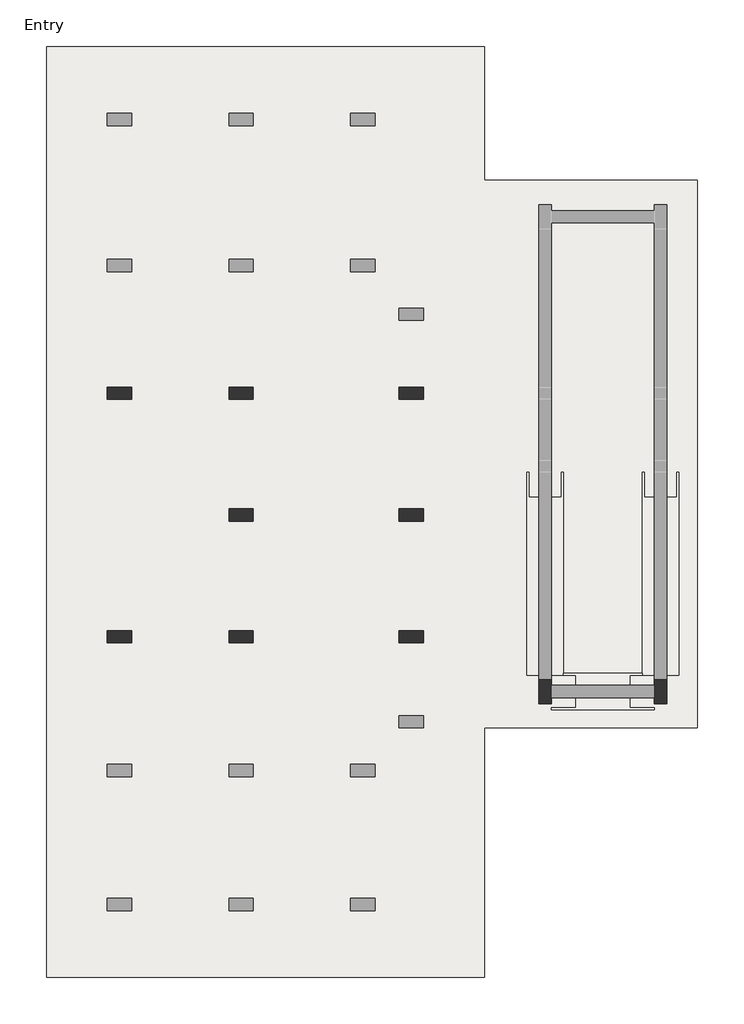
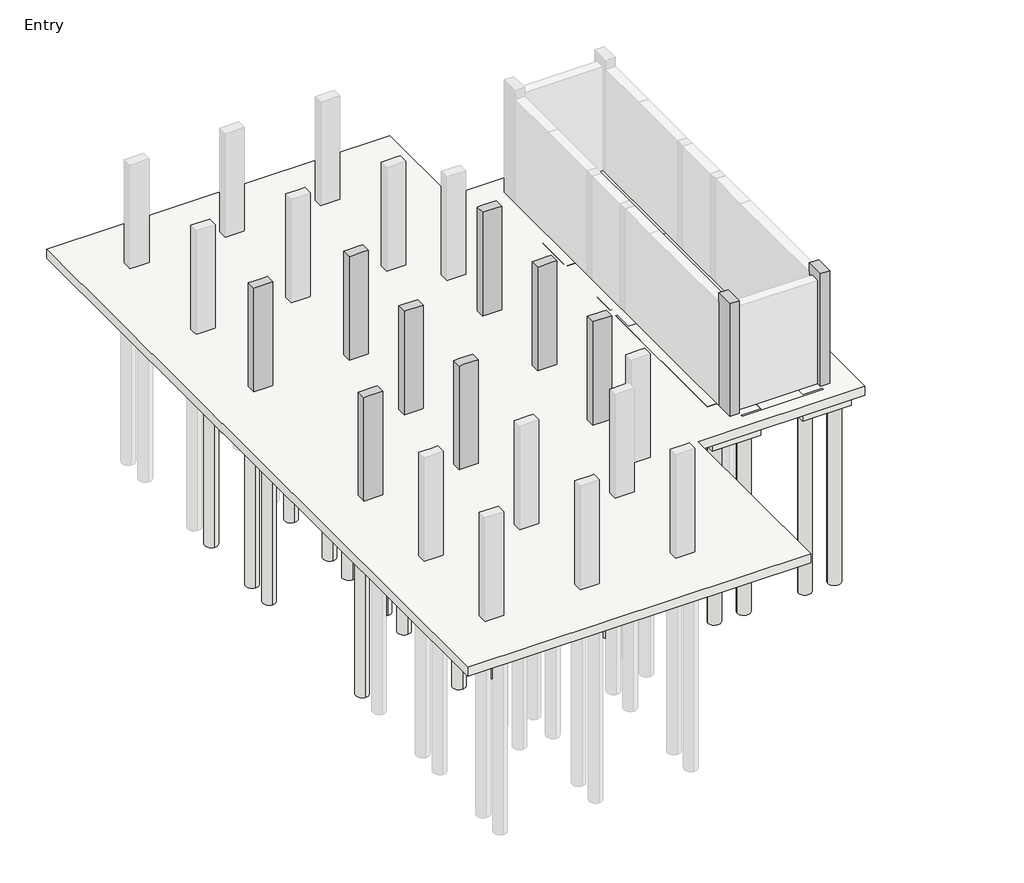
# One storey, part 3 of 4: 39 slabs, 10 columns, 3 footings.
"""IFC4 building model written with IfcOpenShell, lengths in millimetres."""

from ifc_helpers import new_model, si_unit, point, frame, frame_2d, origin, place, context, project, spatial, polyline, circle_curve, trimmed, segment, composite_curve, outline, extrude, faceted_brep, element, save

model = new_model("IFC4")

# Units and contexts
model_context = context("Model", 3, world=origin())
ifc_project = project(units=[si_unit("LENGTHUNIT", "METRE", prefix="MILLI")], contexts=[model_context])

# Site, building, storey
site = spatial("IfcSite", under=ifc_project)
building = spatial("IfcBuilding", under=site)
storey = spatial("IfcBuildingStorey", under=building, Name="Entry", Elevation=0.0)

# Columns
placement = place(None, origin())
element("IfcColumn", 1, ObjectType="Concrete-Rectangular-Column : 12 x 24", at=placement, inside=storey, context=model_context, shape_type="Brep", body=[
    faceted_brep([(-15967.1663981, 3416.1487848, 0.0), (-15357.5663981, 3416.1487848, 0.0), (-15357.5663981, 3111.3487848, 0.0), (-15967.1663981, 3111.3487848, 0.0), (-15967.1663981, 3416.1487848, 3505.2), (-15814.7663981, 3416.1487848, 3505.2), (-15509.9663981, 3416.1487848, 3505.2), (-15357.5663981, 3416.1487848, 3505.2), (-15357.5663981, 3416.1487848, 2895.6), (-15357.5663981, 3111.3487848, 3505.2), (-15357.5663981, 3111.3487848, 2895.6), (-15967.1663981, 3111.3487848, 3505.2)], [[[0, 1, 2, 3]], [[4, 5, 6, 7, 8, 1, 0]], [[7, 9, 10, 2, 1, 8]], [[9, 11, 3, 2, 10]], [[11, 4, 0, 3]], [[4, 11, 9, 7, 6, 5]]]),
])
element("IfcColumn", 2, ObjectType="Concrete-Rectangular-Column : 12 x 24", at=placement, inside=storey, context=model_context, shape_type="Brep", body=[
    faceted_brep([(-15967.1663981, -2679.8512152, 0.0), (-15357.5663981, -2679.8512152, 0.0), (-15357.5663981, -2984.6512152, 0.0), (-15967.1663981, -2984.6512152, 0.0), (-15967.1663981, -2679.8512152, 3505.2), (-15357.5663981, -2679.8512152, 3505.2), (-15357.5663981, -2679.8512152, 2895.6), (-15357.5663981, -2984.6512152, 3505.2), (-15357.5663981, -2984.6512152, 2895.6), (-15509.9663981, -2984.6512152, 3505.2), (-15814.7663981, -2984.6512152, 3505.2), (-15967.1663981, -2984.6512152, 3505.2)], [[[0, 1, 2, 3]], [[4, 5, 6, 1, 0]], [[5, 7, 8, 2, 1, 6]], [[7, 9, 10, 11, 3, 2, 8]], [[11, 4, 0, 3]], [[4, 11, 10, 9, 7, 5]]]),
])
element("IfcColumn", 3, ObjectType="Concrete-Rectangular-Column : 12 x 24", at=placement, inside=storey, context=model_context, shape_type="Brep", body=[
    faceted_brep([(-12919.1663981, -2679.8512152, 0.0), (-12309.5663981, -2679.8512152, 0.0), (-12309.5663981, -2984.6512152, 0.0), (-12919.1663981, -2984.6512152, 0.0), (-12919.1663981, -2679.8512152, 3505.2), (-12766.7663981, -2679.8512152, 3505.2), (-12461.9663981, -2679.8512152, 3505.2), (-12309.5663981, -2679.8512152, 3505.2), (-12309.5663981, -2679.8512152, 2895.6), (-12919.1663981, -2679.8512152, 2895.6), (-12309.5663981, -2984.6512152, 3505.2), (-12309.5663981, -2984.6512152, 2895.6), (-12461.9663981, -2984.6512152, 3505.2), (-12766.7663981, -2984.6512152, 3505.2), (-12919.1663981, -2984.6512152, 3505.2), (-12919.1663981, -2984.6512152, 2895.6)], [[[0, 1, 2, 3]], [[4, 5, 6, 7, 8, 1, 0, 9]], [[7, 10, 11, 2, 1, 8]], [[10, 12, 13, 14, 15, 3, 2, 11]], [[14, 4, 9, 0, 3, 15]], [[4, 14, 13, 12, 10, 7, 6, 5]]]),
])
element("IfcColumn", 4, ObjectType="Concrete-Rectangular-Column : 12 x 24", at=placement, inside=storey, context=model_context, shape_type="Brep", body=[
    faceted_brep([(-12919.1663981, 368.1487848, 0.0), (-12309.5663981, 368.1487848, 0.0), (-12309.5663981, 63.3487848, 0.0), (-12919.1663981, 63.3487848, 0.0), (-12919.1663981, 368.1487848, 3505.2), (-12766.7663981, 368.1487848, 3505.2), (-12461.9663981, 368.1487848, 3505.2), (-12309.5663981, 368.1487848, 3505.2), (-12309.5663981, 368.1487848, 2895.6), (-12309.5663981, 63.3487848, 3505.2), (-12309.5663981, 63.3487848, 2895.6), (-12461.9663981, 63.3487848, 3505.2), (-12766.7663981, 63.3487848, 3505.2), (-12919.1663981, 63.3487848, 3505.2)], [[[0, 1, 2, 3]], [[4, 5, 6, 7, 8, 1, 0]], [[7, 9, 10, 2, 1, 8]], [[9, 11, 12, 13, 3, 2, 10]], [[13, 4, 0, 3]], [[4, 13, 12, 11, 9, 7, 6, 5]]]),
])
element("IfcColumn", 5, ObjectType="Concrete-Rectangular-Column : 12 x 24", at=placement, inside=storey, context=model_context, shape_type="Brep", body=[
    faceted_brep([(-12919.1663981, 3416.1487848, 0.0), (-12309.5663981, 3416.1487848, 0.0), (-12309.5663981, 3111.3487848, 0.0), (-12919.1663981, 3111.3487848, 0.0), (-12919.1663981, 3416.1487848, 3505.2), (-12766.7663981, 3416.1487848, 3505.2), (-12461.9663981, 3416.1487848, 3505.2), (-12309.5663981, 3416.1487848, 3505.2), (-12309.5663981, 3416.1487848, 2895.6), (-12919.1663981, 3416.1487848, 2895.6), (-12309.5663981, 3111.3487848, 3505.2), (-12309.5663981, 3111.3487848, 2895.6), (-12461.9663981, 3111.3487848, 3505.2), (-12766.7663981, 3111.3487848, 3505.2), (-12919.1663981, 3111.3487848, 3505.2), (-12919.1663981, 3111.3487848, 2895.6)], [[[0, 1, 2, 3]], [[4, 5, 6, 7, 8, 1, 0, 9]], [[7, 10, 11, 2, 1, 8]], [[10, 12, 13, 14, 15, 3, 2, 11]], [[14, 4, 9, 0, 3, 15]], [[4, 14, 13, 12, 10, 7, 6, 5]]]),
])
element("IfcColumn", 6, ObjectType="Concrete-Rectangular-Column : 12 x 24", at=placement, inside=storey, context=model_context, shape_type="Brep", body=[
    faceted_brep([(-8651.9663981, 3416.1487848, 0.0), (-8042.3663981, 3416.1487848, 0.0), (-8042.3663981, 3111.3487848, 0.0), (-8651.9663981, 3111.3487848, 0.0), (-8651.9663981, 3416.1487848, 3505.2), (-8499.5663981, 3416.1487848, 3505.2), (-8194.7663981, 3416.1487848, 3505.2), (-8042.3663981, 3416.1487848, 3505.2), (-8042.3663981, 3416.1487848, 2895.6), (-8651.9663981, 3416.1487848, 2895.6), (-8042.3663981, 3111.3487848, 3505.2), (-8042.3663981, 3111.3487848, 2895.6), (-8194.7663981, 3111.3487848, 3505.2), (-8499.5663981, 3111.3487848, 3505.2), (-8651.9663981, 3111.3487848, 3505.2), (-8651.9663981, 3111.3487848, 2895.6)], [[[0, 1, 2, 3]], [[4, 5, 6, 7, 8, 1, 0, 9]], [[7, 10, 11, 2, 1, 8]], [[10, 12, 13, 14, 15, 3, 2, 11]], [[14, 4, 9, 0, 3, 15]], [[4, 14, 13, 12, 10, 7, 6, 5]]]),
])
element("IfcColumn", 7, ObjectType="Concrete-Rectangular-Column : 12 x 24", at=placement, inside=storey, context=model_context, shape_type="Brep", body=[
    faceted_brep([(-8651.9663981, 368.1487848, 0.0), (-8042.3663981, 368.1487848, 0.0), (-8042.3663981, 63.3487848, 0.0), (-8651.9663981, 63.3487848, 0.0), (-8651.9663981, 368.1487848, 3505.2), (-8499.5663981, 368.1487848, 3505.2), (-8194.7663981, 368.1487848, 3505.2), (-8042.3663981, 368.1487848, 3505.2), (-8651.9663981, 368.1487848, 2895.6), (-8042.3663981, 63.3487848, 3505.2), (-8194.7663981, 63.3487848, 3505.2), (-8499.5663981, 63.3487848, 3505.2), (-8651.9663981, 63.3487848, 3505.2), (-8651.9663981, 63.3487848, 2895.6)], [[[0, 1, 2, 3]], [[4, 5, 6, 7, 1, 0, 8]], [[7, 9, 2, 1]], [[9, 10, 11, 12, 13, 3, 2]], [[12, 4, 8, 0, 3, 13]], [[4, 12, 11, 10, 9, 7, 6, 5]]]),
])
element("IfcColumn", 8, ObjectType="Concrete-Rectangular-Column : 12 x 24", at=placement, inside=storey, context=model_context, shape_type="Brep", body=[
    faceted_brep([(-8651.9663981, -2679.8512152, 0.0), (-8042.3663981, -2679.8512152, 0.0), (-8042.3663981, -2984.6512152, 0.0), (-8651.9663981, -2984.6512152, 0.0), (-8651.9663981, -2679.8512152, 3505.2), (-8499.5663981, -2679.8512152, 3505.2), (-8194.7663981, -2679.8512152, 3505.2), (-8042.3663981, -2679.8512152, 3505.2), (-8651.9663981, -2679.8512152, 2895.6), (-8042.3663981, -2984.6512152, 3505.2), (-8194.7663981, -2984.6512152, 3505.2), (-8499.5663981, -2984.6512152, 3505.2), (-8651.9663981, -2984.6512152, 3505.2), (-8651.9663981, -2984.6512152, 2895.6)], [[[0, 1, 2, 3]], [[4, 5, 6, 7, 1, 0, 8]], [[7, 9, 2, 1]], [[9, 10, 11, 12, 13, 3, 2]], [[12, 4, 8, 0, 3, 13]], [[4, 12, 11, 10, 9, 7, 6, 5]]]),
])
element("IfcColumn", 9, ObjectType="Concrete-Rectangular-Column : 12 x 24", at=placement, inside=storey, context=model_context, shape_type="Brep", body=[
    faceted_brep([(-5146.7663981, -4508.6512152, 0.0), (-5146.7663981, -3899.0512152, 0.0), (-4841.9663981, -3899.0512152, 0.0), (-4841.9663981, -4051.4512152, 0.0), (-4841.9663981, -4356.2512152, 0.0), (-4841.9663981, -4508.6512152, 0.0), (-5146.7663981, -4508.6512152, 3810.0), (-5146.7663981, -3899.0512152, 3810.0), (-5146.7663981, -3899.0512152, 3505.2), (-4841.9663981, -3899.0512152, 3810.0), (-4841.9663981, -3899.0512152, 3505.2), (-4841.9663981, -4508.6512152, 3810.0)], [[[0, 1, 2, 3, 4, 5]], [[6, 7, 8, 1, 0]], [[7, 9, 10, 2, 1, 8]], [[9, 11, 5, 4, 3, 2, 10]], [[11, 6, 0, 5]], [[6, 11, 9, 7]]]),
])
element("IfcColumn", 10, ObjectType="Concrete-Rectangular-Column : 12 x 24", at=placement, inside=storey, context=model_context, shape_type="Brep", body=[
    faceted_brep([(-2251.1663981, -4508.6512152, 0.0), (-2251.1663981, -4356.2512152, 0.0), (-2251.1663981, -4051.4512152, 0.0), (-2251.1663981, -3899.0512152, 0.0), (-1946.3663981, -3899.0512152, 0.0), (-1946.3663981, -4508.6512152, 0.0), (-2251.1663981, -4508.6512152, 3810.0), (-2251.1663981, -3899.0512152, 3810.0), (-2251.1663981, -3899.0512152, 3505.2), (-1946.3663981, -3899.0512152, 3810.0), (-1946.3663981, -3899.0512152, 3505.2), (-1946.3663981, -4508.6512152, 3810.0)], [[[0, 1, 2, 3, 4, 5]], [[6, 7, 8, 3, 2, 1, 0]], [[7, 9, 10, 4, 3, 8]], [[9, 11, 5, 4, 10]], [[11, 6, 0, 5]], [[6, 11, 9, 7]]]),
])

# Footings
element("IfcFooting", 11, ObjectType="Bearing Footing - 36\" x 12\"", at=placement, inside=storey, context=model_context, shape_type="Brep", body=[
    faceted_brep([(-4537.1663981, 1282.5487848, 0.0), (-4537.1663981, 1282.5487848, -304.8), (-4587.9663981, 1282.5487848, -304.8), (-4587.9663981, 1282.5487848, 0.0), (-5451.5663981, 1282.5487848, -304.8), (-5451.5663981, 1282.5487848, 0.0), (-5400.7663981, 1282.5487848, 0.0), (-5400.7663981, 1282.5487848, -304.8), (-5451.5663981, -3797.4512152, 0.0), (-4537.1663981, -3797.4512152, 0.0), (-4537.1663981, -3746.6512152, 0.0), (-4587.9663981, 660.2487848, 0.0), (-5400.7663981, 660.2487848, 0.0), (-4537.1663981, -3797.4512152, -304.8), (-4537.1663981, -3746.6512152, -304.8), (-5400.7663981, 660.2487848, -304.8), (-4587.9663981, 660.2487848, -304.8), (-5451.5663981, -3797.4512152, -304.8)], [[[0, 1, 2, 3]], [[4, 5, 6, 7]], [[6, 5, 8, 9, 10, 0, 3, 11, 12]], [[1, 0, 10, 9, 13, 14]], [[4, 7, 15, 16, 2, 1, 14, 13, 17]], [[5, 4, 17, 8]], [[12, 15, 7, 6]], [[15, 12, 11, 16]], [[16, 11, 3, 2]], [[9, 8, 17, 13]]]),
])
element("IfcFooting", 12, ObjectType="Bearing Footing - 36\" x 12\"", at=placement, inside=storey, context=model_context, shape_type="Brep", body=[
    faceted_brep([(-1641.5663981, 1282.5487848, 0.0), (-1641.5663981, 1282.5487848, -304.8), (-1692.3663981, 1282.5487848, -304.8), (-1692.3663981, 1282.5487848, 0.0), (-2555.9663981, 1282.5487848, -304.8), (-2555.9663981, 1282.5487848, 0.0), (-2505.1663981, 1282.5487848, 0.0), (-2505.1663981, 1282.5487848, -304.8), (-2555.9663981, -3746.6512152, 0.0), (-2555.9663981, -3797.4512152, 0.0), (-1641.5663981, -3797.4512152, 0.0), (-1692.3663981, 660.2487848, 0.0), (-2505.1663981, 660.2487848, 0.0), (-1641.5663981, -3797.4512152, -304.8), (-2505.1663981, 660.2487848, -304.8), (-1692.3663981, 660.2487848, -304.8), (-2555.9663981, -3797.4512152, -304.8), (-2555.9663981, -3746.6512152, -304.8)], [[[0, 1, 2, 3]], [[4, 5, 6, 7]], [[6, 5, 8, 9, 10, 0, 3, 11, 12]], [[1, 0, 10, 13]], [[4, 7, 14, 15, 2, 1, 13, 16, 17]], [[5, 4, 17, 16, 9, 8]], [[12, 14, 7, 6]], [[14, 12, 11, 15]], [[15, 11, 3, 2]], [[10, 9, 16, 13]]]),
])
element("IfcFooting", 13, ObjectType="Bearing Footing - 36\" x 12\"", at=placement, inside=storey, context=model_context, shape_type="SweptSolid", body=[
    extrude(outline(polyline([(-2251.1663981, -4661.0512152), (-4841.9663981, -4661.0512152), (-4841.9663981, -4610.2512152), (-4219.6663981, -4610.2512152), (-4219.6663981, -3797.4512152), (-4537.1663981, -3797.4512152), (-4537.1663981, -3746.6512152), (-2555.9663981, -3746.6512152), (-2555.9663981, -3797.4512152), (-2873.4663981, -3797.4512152), (-2873.4663981, -4610.2512152), (-2251.1663981, -4610.2512152), (-2251.1663981, -4661.0512152)])), frame((0.0, 0.0, -304.8), z_axis=(0.0, 0.0, 1.0), x_axis=(1.0, 0.0, 0.0)), (0.0, 0.0, 1.0), 304.8),
])

# Slabs
element("IfcSlab", 14, ObjectType="12\" Foundation Slab", at=placement, inside=storey, context=model_context, shape_type="SweptSolid", body=[
    extrude(outline(polyline([(-6518.3663981, 11950.5487848), (-6518.3663981, 8597.7487848), (-1184.3663981, 8597.7487848), (-1184.3663981, -5118.2512152), (-6518.3663981, -5118.2512152), (-6518.3663981, -11366.6512152), (-17491.1663981, -11366.6512152), (-17491.1663981, 11950.5487848), (-6518.3663981, 11950.5487848)])), frame((0.0, 0.0, -304.8), z_axis=(0.0, 0.0, 1.0), x_axis=(1.0, 0.0, 0.0)), (0.0, 0.0, 1.0), 304.8),
])
element("IfcSlab", 15, ObjectType="Pile Cap-2 Pile : 31\"x61\"x35\"", at=placement, inside=storey, context=model_context, shape_type="SweptSolid", body=[
    extrude(outline(polyline([(-16068.7663981, 4038.4487848), (-15255.9663981, 4038.4487848), (-15255.9663981, 2489.0487848), (-16068.7663981, 2489.0487848), (-16068.7663981, 4038.4487848)])), frame((0.0, 0.0, -889.0), z_axis=(0.0, 0.0, 1.0), x_axis=(1.0, 0.0, 0.0)), (0.0, 0.0, 1.0), 584.2),
])
element("IfcSlab", 16, ObjectType="Pile Cap-2 Pile : 31\"x61\"x35\"", at=placement, inside=storey, context=model_context, shape_type="SweptSolid", body=[
    extrude(outline(polyline([(-16068.7663981, -2057.5512152), (-15255.9663981, -2057.5512152), (-15255.9663981, -3606.9512152), (-16068.7663981, -3606.9512152), (-16068.7663981, -2057.5512152)])), frame((0.0, 0.0, -889.0), z_axis=(0.0, 0.0, 1.0), x_axis=(1.0, 0.0, 0.0)), (0.0, 0.0, 1.0), 584.2),
])
element("IfcSlab", 17, ObjectType="Pile Cap-2 Pile : 31\"x61\"x35\"", at=placement, inside=storey, context=model_context, shape_type="SweptSolid", body=[
    extrude(outline(polyline([(-8753.5663981, -2057.5512152), (-7940.7663981, -2057.5512152), (-7940.7663981, -3606.9512152), (-8753.5663981, -3606.9512152), (-8753.5663981, -2057.5512152)])), frame((0.0, 0.0, -889.0), z_axis=(0.0, 0.0, 1.0), x_axis=(1.0, 0.0, 0.0)), (0.0, 0.0, 1.0), 584.2),
])
element("IfcSlab", 18, ObjectType="Pile Cap-2 Pile : 31\"x61\"x35\"", at=placement, inside=storey, context=model_context, shape_type="SweptSolid", body=[
    extrude(outline(polyline([(-8753.5663981, 990.4487848), (-7940.7663981, 990.4487848), (-7940.7663981, -558.9512152), (-8753.5663981, -558.9512152), (-8753.5663981, 990.4487848)])), frame((0.0, 0.0, -889.0), z_axis=(0.0, 0.0, 1.0), x_axis=(1.0, 0.0, 0.0)), (0.0, 0.0, 1.0), 584.2),
])
element("IfcSlab", 19, ObjectType="Pile Cap-2 Pile : 31\"x61\"x35\"", at=placement, inside=storey, context=model_context, shape_type="SweptSolid", body=[
    extrude(outline(polyline([(-8753.5663981, 4038.4487848), (-7940.7663981, 4038.4487848), (-7940.7663981, 2489.0487848), (-8753.5663981, 2489.0487848), (-8753.5663981, 4038.4487848)])), frame((0.0, 0.0, -889.0), z_axis=(0.0, 0.0, 1.0), x_axis=(1.0, 0.0, 0.0)), (0.0, 0.0, 1.0), 584.2),
])
element("IfcSlab", 20, ObjectType="Pile Cap-2 Pile : 31\"x61\"x35\"", at=placement, inside=storey, context=model_context, shape_type="SweptSolid", body=[
    extrude(outline(polyline([(-5769.0663981, -4610.2512152), (-5769.0663981, -3797.4512152), (-4219.6663981, -3797.4512152), (-4219.6663981, -4610.2512152), (-5769.0663981, -4610.2512152)])), frame((0.0, 0.0, -889.0), z_axis=(0.0, 0.0, 1.0), x_axis=(1.0, 0.0, 0.0)), (0.0, 0.0, 1.0), 584.2),
])
element("IfcSlab", 21, ObjectType="Pile Cap-2 Pile : 31\"x61\"x35\"", at=placement, inside=storey, context=model_context, shape_type="SweptSolid", body=[
    extrude(outline(polyline([(-2873.4663981, -4610.2512152), (-2873.4663981, -3797.4512152), (-1324.0663981, -3797.4512152), (-1324.0663981, -4610.2512152), (-2873.4663981, -4610.2512152)])), frame((0.0, 0.0, -889.0), z_axis=(0.0, 0.0, 1.0), x_axis=(1.0, 0.0, 0.0)), (0.0, 0.0, 1.0), 584.2),
])
element("IfcSlab", 22, ObjectType="Pile Cap-4 Pile : 72\"x72\"x35\"", at=placement, inside=storey, context=model_context, shape_type="SweptSolid", body=[
    extrude(outline(polyline([(-13528.7663981, 4178.1487848), (-11699.9663981, 4178.1487848), (-11699.9663981, 2349.3487848), (-13528.7663981, 2349.3487848), (-13528.7663981, 4178.1487848)])), frame((0.0, 0.0, -889.0), z_axis=(0.0, 0.0, 1.0), x_axis=(1.0, 0.0, 0.0)), (0.0, 0.0, 1.0), 584.2),
])
element("IfcSlab", 23, ObjectType="Pile Cap-4 Pile : 72\"x72\"x35\"", at=placement, inside=storey, context=model_context, shape_type="SweptSolid", body=[
    extrude(outline(polyline([(-13528.7663981, 1130.1487848), (-11699.9663981, 1130.1487848), (-11699.9663981, -698.6512152), (-13528.7663981, -698.6512152), (-13528.7663981, 1130.1487848)])), frame((0.0, 0.0, -889.0), z_axis=(0.0, 0.0, 1.0), x_axis=(1.0, 0.0, 0.0)), (0.0, 0.0, 1.0), 584.2),
])
element("IfcSlab", 24, ObjectType="Pile Cap-4 Pile : 72\"x72\"x35\"", at=placement, inside=storey, context=model_context, shape_type="SweptSolid", body=[
    extrude(outline(polyline([(-13528.7663981, -1917.8512152), (-11699.9663981, -1917.8512152), (-11699.9663981, -3746.6512152), (-13528.7663981, -3746.6512152), (-13528.7663981, -1917.8512152)])), frame((0.0, 0.0, -889.0), z_axis=(0.0, 0.0, 1.0), x_axis=(1.0, 0.0, 0.0)), (0.0, 0.0, 1.0), 584.2),
])
element("IfcSlab", 25, ObjectType="Pile-Steel Pipe : 16\" Diameter", at=placement, inside=storey, context=model_context, shape_type="SweptSolid", body=[
    extrude(outline(composite_curve([segment(trimmed(circle_curve(frame_2d((-13147.7663981, 5930.7487848)), 203.2), [point((-13147.7663981, 5727.5487848))], [point((-13147.7663981, 6133.9487848))], False, "CARTESIAN"), True, "CONTINUOUS"), segment(trimmed(circle_curve(frame_2d((-13147.7663981, 5930.7487848)), 203.2), [point((-13147.7663981, 6133.9487848))], [point((-13147.7663981, 5727.5487848))], False, "CARTESIAN"), True, "CONTINUOUS")], self_intersect=False)), frame((0.0, 0.0, -6985.0), z_axis=(0.0, 0.0, 1.0), x_axis=(1.0, 0.0, 0.0)), (0.0, 0.0, 1.0), 6096.0),
])
element("IfcSlab", 26, ObjectType="Pile-Steel Pipe : 16\" Diameter", at=placement, inside=storey, context=model_context, shape_type="SweptSolid", body=[
    extrude(outline(composite_curve([segment(trimmed(circle_curve(frame_2d((-12080.9663981, 5930.7487848)), 203.2), [point((-12080.9663981, 5727.5487848))], [point((-12080.9663981, 6133.9487848))], False, "CARTESIAN"), True, "CONTINUOUS"), segment(trimmed(circle_curve(frame_2d((-12080.9663981, 5930.7487848)), 203.2), [point((-12080.9663981, 6133.9487848))], [point((-12080.9663981, 5727.5487848))], False, "CARTESIAN"), True, "CONTINUOUS")], self_intersect=False)), frame((0.0, 0.0, -6985.0), z_axis=(0.0, 0.0, 1.0), x_axis=(1.0, 0.0, 0.0)), (0.0, 0.0, 1.0), 6096.0),
])
element("IfcSlab", 27, ObjectType="Pile-Steel Pipe : 16\" Diameter", at=placement, inside=storey, context=model_context, shape_type="SweptSolid", body=[
    extrude(outline(composite_curve([segment(trimmed(circle_curve(frame_2d((-13147.7663981, 2730.3487848)), 203.2), [point((-13147.7663981, 2527.1487848))], [point((-13147.7663981, 2933.5487848))], False, "CARTESIAN"), True, "CONTINUOUS"), segment(trimmed(circle_curve(frame_2d((-13147.7663981, 2730.3487848)), 203.2), [point((-13147.7663981, 2933.5487848))], [point((-13147.7663981, 2527.1487848))], False, "CARTESIAN"), True, "CONTINUOUS")], self_intersect=False)), frame((0.0, 0.0, -6985.0), z_axis=(0.0, 0.0, 1.0), x_axis=(1.0, 0.0, 0.0)), (0.0, 0.0, 1.0), 6096.0),
])
element("IfcSlab", 28, ObjectType="Pile-Steel Pipe : 16\" Diameter", at=placement, inside=storey, context=model_context, shape_type="SweptSolid", body=[
    extrude(outline(composite_curve([segment(trimmed(circle_curve(frame_2d((-12080.9663981, 2730.3487848)), 203.2), [point((-12080.9663981, 2527.1487848))], [point((-12080.9663981, 2933.5487848))], False, "CARTESIAN"), True, "CONTINUOUS"), segment(trimmed(circle_curve(frame_2d((-12080.9663981, 2730.3487848)), 203.2), [point((-12080.9663981, 2933.5487848))], [point((-12080.9663981, 2527.1487848))], False, "CARTESIAN"), True, "CONTINUOUS")], self_intersect=False)), frame((0.0, 0.0, -6985.0), z_axis=(0.0, 0.0, 1.0), x_axis=(1.0, 0.0, 0.0)), (0.0, 0.0, 1.0), 6096.0),
])
element("IfcSlab", 29, ObjectType="Pile-Steel Pipe : 16\" Diameter", at=placement, inside=storey, context=model_context, shape_type="SweptSolid", body=[
    extrude(outline(composite_curve([segment(trimmed(circle_curve(frame_2d((-12080.9663981, 3797.1487848)), 203.2), [point((-12080.9663981, 3593.9487848))], [point((-12080.9663981, 4000.3487848))], False, "CARTESIAN"), True, "CONTINUOUS"), segment(trimmed(circle_curve(frame_2d((-12080.9663981, 3797.1487848)), 203.2), [point((-12080.9663981, 4000.3487848))], [point((-12080.9663981, 3593.9487848))], False, "CARTESIAN"), True, "CONTINUOUS")], self_intersect=False)), frame((0.0, 0.0, -6985.0), z_axis=(0.0, 0.0, 1.0), x_axis=(1.0, 0.0, 0.0)), (0.0, 0.0, 1.0), 6096.0),
])
element("IfcSlab", 30, ObjectType="Pile-Steel Pipe : 16\" Diameter", at=placement, inside=storey, context=model_context, shape_type="SweptSolid", body=[
    extrude(outline(composite_curve([segment(trimmed(circle_curve(frame_2d((-13147.7663981, 3797.1487848)), 203.2), [point((-13147.7663981, 3593.9487848))], [point((-13147.7663981, 4000.3487848))], False, "CARTESIAN"), True, "CONTINUOUS"), segment(trimmed(circle_curve(frame_2d((-13147.7663981, 3797.1487848)), 203.2), [point((-13147.7663981, 4000.3487848))], [point((-13147.7663981, 3593.9487848))], False, "CARTESIAN"), True, "CONTINUOUS")], self_intersect=False)), frame((0.0, 0.0, -6985.0), z_axis=(0.0, 0.0, 1.0), x_axis=(1.0, 0.0, 0.0)), (0.0, 0.0, 1.0), 6096.0),
])
element("IfcSlab", 31, ObjectType="Pile-Steel Pipe : 16\" Diameter", at=placement, inside=storey, context=model_context, shape_type="SweptSolid", body=[
    extrude(outline(composite_curve([segment(trimmed(circle_curve(frame_2d((-13147.7663981, -317.6512152)), 203.2), [point((-13147.7663981, -520.8512152))], [point((-13147.7663981, -114.4512152))], False, "CARTESIAN"), True, "CONTINUOUS"), segment(trimmed(circle_curve(frame_2d((-13147.7663981, -317.6512152)), 203.2), [point((-13147.7663981, -114.4512152))], [point((-13147.7663981, -520.8512152))], False, "CARTESIAN"), True, "CONTINUOUS")], self_intersect=False)), frame((0.0, 0.0, -6985.0), z_axis=(0.0, 0.0, 1.0), x_axis=(1.0, 0.0, 0.0)), (0.0, 0.0, 1.0), 6096.0),
])
element("IfcSlab", 32, ObjectType="Pile-Steel Pipe : 16\" Diameter", at=placement, inside=storey, context=model_context, shape_type="SweptSolid", body=[
    extrude(outline(composite_curve([segment(trimmed(circle_curve(frame_2d((-12080.9663981, -317.6512152)), 203.2), [point((-12080.9663981, -520.8512152))], [point((-12080.9663981, -114.4512152))], False, "CARTESIAN"), True, "CONTINUOUS"), segment(trimmed(circle_curve(frame_2d((-12080.9663981, -317.6512152)), 203.2), [point((-12080.9663981, -114.4512152))], [point((-12080.9663981, -520.8512152))], False, "CARTESIAN"), True, "CONTINUOUS")], self_intersect=False)), frame((0.0, 0.0, -6985.0), z_axis=(0.0, 0.0, 1.0), x_axis=(1.0, 0.0, 0.0)), (0.0, 0.0, 1.0), 6096.0),
])
element("IfcSlab", 33, ObjectType="Pile-Steel Pipe : 16\" Diameter", at=placement, inside=storey, context=model_context, shape_type="SweptSolid", body=[
    extrude(outline(composite_curve([segment(trimmed(circle_curve(frame_2d((-12080.9663981, 749.1487848)), 203.2), [point((-12080.9663981, 545.9487848))], [point((-12080.9663981, 952.3487848))], False, "CARTESIAN"), True, "CONTINUOUS"), segment(trimmed(circle_curve(frame_2d((-12080.9663981, 749.1487848)), 203.2), [point((-12080.9663981, 952.3487848))], [point((-12080.9663981, 545.9487848))], False, "CARTESIAN"), True, "CONTINUOUS")], self_intersect=False)), frame((0.0, 0.0, -6985.0), z_axis=(0.0, 0.0, 1.0), x_axis=(1.0, 0.0, 0.0)), (0.0, 0.0, 1.0), 6096.0),
])
element("IfcSlab", 34, ObjectType="Pile-Steel Pipe : 16\" Diameter", at=placement, inside=storey, context=model_context, shape_type="SweptSolid", body=[
    extrude(outline(composite_curve([segment(trimmed(circle_curve(frame_2d((-13147.7663981, 749.1487848)), 203.2), [point((-13147.7663981, 545.9487848))], [point((-13147.7663981, 952.3487848))], False, "CARTESIAN"), True, "CONTINUOUS"), segment(trimmed(circle_curve(frame_2d((-13147.7663981, 749.1487848)), 203.2), [point((-13147.7663981, 952.3487848))], [point((-13147.7663981, 545.9487848))], False, "CARTESIAN"), True, "CONTINUOUS")], self_intersect=False)), frame((0.0, 0.0, -6985.0), z_axis=(0.0, 0.0, 1.0), x_axis=(1.0, 0.0, 0.0)), (0.0, 0.0, 1.0), 6096.0),
])
element("IfcSlab", 35, ObjectType="Pile-Steel Pipe : 16\" Diameter", at=placement, inside=storey, context=model_context, shape_type="SweptSolid", body=[
    extrude(outline(composite_curve([segment(trimmed(circle_curve(frame_2d((-13147.7663981, -3365.6512152)), 203.2), [point((-13147.7663981, -3568.8512152))], [point((-13147.7663981, -3162.4512152))], False, "CARTESIAN"), True, "CONTINUOUS"), segment(trimmed(circle_curve(frame_2d((-13147.7663981, -3365.6512152)), 203.2), [point((-13147.7663981, -3162.4512152))], [point((-13147.7663981, -3568.8512152))], False, "CARTESIAN"), True, "CONTINUOUS")], self_intersect=False)), frame((0.0, 0.0, -6985.0), z_axis=(0.0, 0.0, 1.0), x_axis=(1.0, 0.0, 0.0)), (0.0, 0.0, 1.0), 6096.0),
])
element("IfcSlab", 36, ObjectType="Pile-Steel Pipe : 16\" Diameter", at=placement, inside=storey, context=model_context, shape_type="SweptSolid", body=[
    extrude(outline(composite_curve([segment(trimmed(circle_curve(frame_2d((-12080.9663981, -3365.6512152)), 203.2), [point((-12080.9663981, -3568.8512152))], [point((-12080.9663981, -3162.4512152))], False, "CARTESIAN"), True, "CONTINUOUS"), segment(trimmed(circle_curve(frame_2d((-12080.9663981, -3365.6512152)), 203.2), [point((-12080.9663981, -3162.4512152))], [point((-12080.9663981, -3568.8512152))], False, "CARTESIAN"), True, "CONTINUOUS")], self_intersect=False)), frame((0.0, 0.0, -6985.0), z_axis=(0.0, 0.0, 1.0), x_axis=(1.0, 0.0, 0.0)), (0.0, 0.0, 1.0), 6096.0),
])
element("IfcSlab", 37, ObjectType="Pile-Steel Pipe : 16\" Diameter", at=placement, inside=storey, context=model_context, shape_type="SweptSolid", body=[
    extrude(outline(composite_curve([segment(trimmed(circle_curve(frame_2d((-12080.9663981, -2298.8512152)), 203.2), [point((-12080.9663981, -2502.0512152))], [point((-12080.9663981, -2095.6512152))], False, "CARTESIAN"), True, "CONTINUOUS"), segment(trimmed(circle_curve(frame_2d((-12080.9663981, -2298.8512152)), 203.2), [point((-12080.9663981, -2095.6512152))], [point((-12080.9663981, -2502.0512152))], False, "CARTESIAN"), True, "CONTINUOUS")], self_intersect=False)), frame((0.0, 0.0, -6985.0), z_axis=(0.0, 0.0, 1.0), x_axis=(1.0, 0.0, 0.0)), (0.0, 0.0, 1.0), 6096.0),
])
element("IfcSlab", 38, ObjectType="Pile-Steel Pipe : 16\" Diameter", at=placement, inside=storey, context=model_context, shape_type="SweptSolid", body=[
    extrude(outline(composite_curve([segment(trimmed(circle_curve(frame_2d((-13147.7663981, -2298.8512152)), 203.2), [point((-13147.7663981, -2502.0512152))], [point((-13147.7663981, -2095.6512152))], False, "CARTESIAN"), True, "CONTINUOUS"), segment(trimmed(circle_curve(frame_2d((-13147.7663981, -2298.8512152)), 203.2), [point((-13147.7663981, -2095.6512152))], [point((-13147.7663981, -2502.0512152))], False, "CARTESIAN"), True, "CONTINUOUS")], self_intersect=False)), frame((0.0, 0.0, -6985.0), z_axis=(0.0, 0.0, 1.0), x_axis=(1.0, 0.0, 0.0)), (0.0, 0.0, 1.0), 6096.0),
])
element("IfcSlab", 39, ObjectType="Pile-Steel Pipe : 16\" Diameter", at=placement, inside=storey, context=model_context, shape_type="SweptSolid", body=[
    extrude(outline(composite_curve([segment(trimmed(circle_curve(frame_2d((-15662.3663981, 5994.2487848)), 203.2), [point((-15662.3663981, 5791.0487848))], [point((-15662.3663981, 6197.4487848))], False, "CARTESIAN"), True, "CONTINUOUS"), segment(trimmed(circle_curve(frame_2d((-15662.3663981, 5994.2487848)), 203.2), [point((-15662.3663981, 6197.4487848))], [point((-15662.3663981, 5791.0487848))], False, "CARTESIAN"), True, "CONTINUOUS")], self_intersect=False)), frame((0.0, 0.0, -6985.0), z_axis=(0.0, 0.0, 1.0), x_axis=(1.0, 0.0, 0.0)), (0.0, 0.0, 1.0), 6096.0),
])
element("IfcSlab", 40, ObjectType="Pile-Steel Pipe : 16\" Diameter", at=placement, inside=storey, context=model_context, shape_type="SweptSolid", body=[
    extrude(outline(composite_curve([segment(trimmed(circle_curve(frame_2d((-15662.3663981, 2793.8487848)), 203.2), [point((-15662.3663981, 2590.6487848))], [point((-15662.3663981, 2997.0487848))], False, "CARTESIAN"), True, "CONTINUOUS"), segment(trimmed(circle_curve(frame_2d((-15662.3663981, 2793.8487848)), 203.2), [point((-15662.3663981, 2997.0487848))], [point((-15662.3663981, 2590.6487848))], False, "CARTESIAN"), True, "CONTINUOUS")], self_intersect=False)), frame((0.0, 0.0, -6985.0), z_axis=(0.0, 0.0, 1.0), x_axis=(1.0, 0.0, 0.0)), (0.0, 0.0, 1.0), 6096.0),
])
element("IfcSlab", 41, ObjectType="Pile-Steel Pipe : 16\" Diameter", at=placement, inside=storey, context=model_context, shape_type="SweptSolid", body=[
    extrude(outline(composite_curve([segment(trimmed(circle_curve(frame_2d((-15662.3663981, 3733.6487848)), 203.2), [point((-15662.3663981, 3530.4487848))], [point((-15662.3663981, 3936.8487848))], False, "CARTESIAN"), True, "CONTINUOUS"), segment(trimmed(circle_curve(frame_2d((-15662.3663981, 3733.6487848)), 203.2), [point((-15662.3663981, 3936.8487848))], [point((-15662.3663981, 3530.4487848))], False, "CARTESIAN"), True, "CONTINUOUS")], self_intersect=False)), frame((0.0, 0.0, -6985.0), z_axis=(0.0, 0.0, 1.0), x_axis=(1.0, 0.0, 0.0)), (0.0, 0.0, 1.0), 6096.0),
])
element("IfcSlab", 42, ObjectType="Pile-Steel Pipe : 16\" Diameter", at=placement, inside=storey, context=model_context, shape_type="SweptSolid", body=[
    extrude(outline(composite_curve([segment(trimmed(circle_curve(frame_2d((-15662.3663981, -2362.3512152)), 203.2), [point((-15662.3663981, -2565.5512152))], [point((-15662.3663981, -2159.1512152))], False, "CARTESIAN"), True, "CONTINUOUS"), segment(trimmed(circle_curve(frame_2d((-15662.3663981, -2362.3512152)), 203.2), [point((-15662.3663981, -2159.1512152))], [point((-15662.3663981, -2565.5512152))], False, "CARTESIAN"), True, "CONTINUOUS")], self_intersect=False)), frame((0.0, 0.0, -6985.0), z_axis=(0.0, 0.0, 1.0), x_axis=(1.0, 0.0, 0.0)), (0.0, 0.0, 1.0), 6096.0),
])
element("IfcSlab", 43, ObjectType="Pile-Steel Pipe : 16\" Diameter", at=placement, inside=storey, context=model_context, shape_type="SweptSolid", body=[
    extrude(outline(composite_curve([segment(trimmed(circle_curve(frame_2d((-8347.1663981, -3302.1512152)), 203.2), [point((-8347.1663981, -3505.3512152))], [point((-8347.1663981, -3098.9512152))], False, "CARTESIAN"), True, "CONTINUOUS"), segment(trimmed(circle_curve(frame_2d((-8347.1663981, -3302.1512152)), 203.2), [point((-8347.1663981, -3098.9512152))], [point((-8347.1663981, -3505.3512152))], False, "CARTESIAN"), True, "CONTINUOUS")], self_intersect=False)), frame((0.0, 0.0, -6985.0), z_axis=(0.0, 0.0, 1.0), x_axis=(1.0, 0.0, 0.0)), (0.0, 0.0, 1.0), 6096.0),
])
element("IfcSlab", 44, ObjectType="Pile-Steel Pipe : 16\" Diameter", at=placement, inside=storey, context=model_context, shape_type="SweptSolid", body=[
    extrude(outline(composite_curve([segment(trimmed(circle_curve(frame_2d((-8347.1663981, -2362.3512152)), 203.2), [point((-8347.1663981, -2565.5512152))], [point((-8347.1663981, -2159.1512152))], False, "CARTESIAN"), True, "CONTINUOUS"), segment(trimmed(circle_curve(frame_2d((-8347.1663981, -2362.3512152)), 203.2), [point((-8347.1663981, -2159.1512152))], [point((-8347.1663981, -2565.5512152))], False, "CARTESIAN"), True, "CONTINUOUS")], self_intersect=False)), frame((0.0, 0.0, -6985.0), z_axis=(0.0, 0.0, 1.0), x_axis=(1.0, 0.0, 0.0)), (0.0, 0.0, 1.0), 6096.0),
])
element("IfcSlab", 45, ObjectType="Pile-Steel Pipe : 16\" Diameter", at=placement, inside=storey, context=model_context, shape_type="SweptSolid", body=[
    extrude(outline(composite_curve([segment(trimmed(circle_curve(frame_2d((-8347.1663981, -254.1512152)), 203.2), [point((-8347.1663981, -457.3512152))], [point((-8347.1663981, -50.9512152))], False, "CARTESIAN"), True, "CONTINUOUS"), segment(trimmed(circle_curve(frame_2d((-8347.1663981, -254.1512152)), 203.2), [point((-8347.1663981, -50.9512152))], [point((-8347.1663981, -457.3512152))], False, "CARTESIAN"), True, "CONTINUOUS")], self_intersect=False)), frame((0.0, 0.0, -6985.0), z_axis=(0.0, 0.0, 1.0), x_axis=(1.0, 0.0, 0.0)), (0.0, 0.0, 1.0), 6096.0),
])
element("IfcSlab", 46, ObjectType="Pile-Steel Pipe : 16\" Diameter", at=placement, inside=storey, context=model_context, shape_type="SweptSolid", body=[
    extrude(outline(composite_curve([segment(trimmed(circle_curve(frame_2d((-8347.1663981, 685.6487848)), 203.2), [point((-8347.1663981, 482.4487848))], [point((-8347.1663981, 888.8487848))], False, "CARTESIAN"), True, "CONTINUOUS"), segment(trimmed(circle_curve(frame_2d((-8347.1663981, 685.6487848)), 203.2), [point((-8347.1663981, 888.8487848))], [point((-8347.1663981, 482.4487848))], False, "CARTESIAN"), True, "CONTINUOUS")], self_intersect=False)), frame((0.0, 0.0, -6985.0), z_axis=(0.0, 0.0, 1.0), x_axis=(1.0, 0.0, 0.0)), (0.0, 0.0, 1.0), 6096.0),
])
element("IfcSlab", 47, ObjectType="Pile-Steel Pipe : 16\" Diameter", at=placement, inside=storey, context=model_context, shape_type="SweptSolid", body=[
    extrude(outline(composite_curve([segment(trimmed(circle_curve(frame_2d((-8347.1663981, 2793.8487848)), 203.2), [point((-8347.1663981, 2590.6487848))], [point((-8347.1663981, 2997.0487848))], False, "CARTESIAN"), True, "CONTINUOUS"), segment(trimmed(circle_curve(frame_2d((-8347.1663981, 2793.8487848)), 203.2), [point((-8347.1663981, 2997.0487848))], [point((-8347.1663981, 2590.6487848))], False, "CARTESIAN"), True, "CONTINUOUS")], self_intersect=False)), frame((0.0, 0.0, -6985.0), z_axis=(0.0, 0.0, 1.0), x_axis=(1.0, 0.0, 0.0)), (0.0, 0.0, 1.0), 6096.0),
])
element("IfcSlab", 48, ObjectType="Pile-Steel Pipe : 16\" Diameter", at=placement, inside=storey, context=model_context, shape_type="SweptSolid", body=[
    extrude(outline(composite_curve([segment(trimmed(circle_curve(frame_2d((-8347.1663981, 3733.6487848)), 203.2), [point((-8347.1663981, 3530.4487848))], [point((-8347.1663981, 3936.8487848))], False, "CARTESIAN"), True, "CONTINUOUS"), segment(trimmed(circle_curve(frame_2d((-8347.1663981, 3733.6487848)), 203.2), [point((-8347.1663981, 3936.8487848))], [point((-8347.1663981, 3530.4487848))], False, "CARTESIAN"), True, "CONTINUOUS")], self_intersect=False)), frame((0.0, 0.0, -6985.0), z_axis=(0.0, 0.0, 1.0), x_axis=(1.0, 0.0, 0.0)), (0.0, 0.0, 1.0), 6096.0),
])
element("IfcSlab", 49, ObjectType="Pile-Steel Pipe : 16\" Diameter", at=placement, inside=storey, context=model_context, shape_type="SweptSolid", body=[
    extrude(outline(composite_curve([segment(trimmed(circle_curve(frame_2d((-4524.4663981, -4203.8512152)), 203.2), [point((-4321.2663981, -4203.8512152))], [point((-4727.6663981, -4203.8512152))], False, "CARTESIAN"), True, "CONTINUOUS"), segment(trimmed(circle_curve(frame_2d((-4524.4663981, -4203.8512152)), 203.2), [point((-4727.6663981, -4203.8512152))], [point((-4321.2663981, -4203.8512152))], False, "CARTESIAN"), True, "CONTINUOUS")], self_intersect=False)), frame((0.0, 0.0, -6985.0), z_axis=(0.0, 0.0, 1.0), x_axis=(1.0, 0.0, 0.0)), (0.0, 0.0, 1.0), 6096.0),
])
element("IfcSlab", 50, ObjectType="Pile-Steel Pipe : 16\" Diameter", at=placement, inside=storey, context=model_context, shape_type="SweptSolid", body=[
    extrude(outline(composite_curve([segment(trimmed(circle_curve(frame_2d((-5464.2663981, -4203.8512152)), 203.2), [point((-5261.0663981, -4203.8512152))], [point((-5667.4663981, -4203.8512152))], False, "CARTESIAN"), True, "CONTINUOUS"), segment(trimmed(circle_curve(frame_2d((-5464.2663981, -4203.8512152)), 203.2), [point((-5667.4663981, -4203.8512152))], [point((-5261.0663981, -4203.8512152))], False, "CARTESIAN"), True, "CONTINUOUS")], self_intersect=False)), frame((0.0, 0.0, -6985.0), z_axis=(0.0, 0.0, 1.0), x_axis=(1.0, 0.0, 0.0)), (0.0, 0.0, 1.0), 6096.0),
])
element("IfcSlab", 51, ObjectType="Pile-Steel Pipe : 16\" Diameter", at=placement, inside=storey, context=model_context, shape_type="SweptSolid", body=[
    extrude(outline(composite_curve([segment(trimmed(circle_curve(frame_2d((-1628.8663981, -4203.8512152)), 203.2), [point((-1425.6663981, -4203.8512152))], [point((-1832.0663981, -4203.8512152))], False, "CARTESIAN"), True, "CONTINUOUS"), segment(trimmed(circle_curve(frame_2d((-1628.8663981, -4203.8512152)), 203.2), [point((-1832.0663981, -4203.8512152))], [point((-1425.6663981, -4203.8512152))], False, "CARTESIAN"), True, "CONTINUOUS")], self_intersect=False)), frame((0.0, 0.0, -6985.0), z_axis=(0.0, 0.0, 1.0), x_axis=(1.0, 0.0, 0.0)), (0.0, 0.0, 1.0), 6096.0),
])
element("IfcSlab", 52, ObjectType="Pile-Steel Pipe : 16\" Diameter", at=placement, inside=storey, context=model_context, shape_type="SweptSolid", body=[
    extrude(outline(composite_curve([segment(trimmed(circle_curve(frame_2d((-2568.6663981, -4203.8512152)), 203.2), [point((-2365.4663981, -4203.8512152))], [point((-2771.8663981, -4203.8512152))], False, "CARTESIAN"), True, "CONTINUOUS"), segment(trimmed(circle_curve(frame_2d((-2568.6663981, -4203.8512152)), 203.2), [point((-2771.8663981, -4203.8512152))], [point((-2365.4663981, -4203.8512152))], False, "CARTESIAN"), True, "CONTINUOUS")], self_intersect=False)), frame((0.0, 0.0, -6985.0), z_axis=(0.0, 0.0, 1.0), x_axis=(1.0, 0.0, 0.0)), (0.0, 0.0, 1.0), 6096.0),
])

save(model, "model.ifc")
